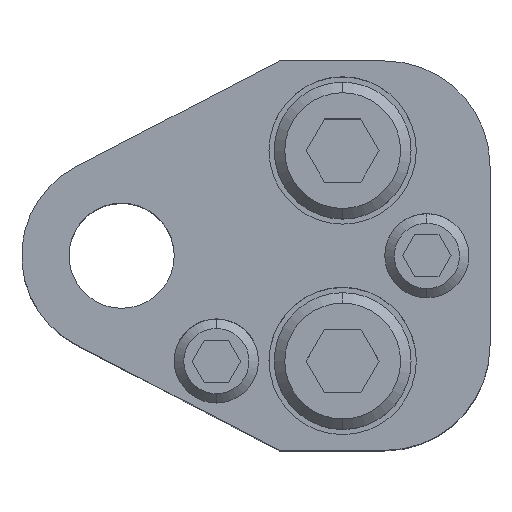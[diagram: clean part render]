
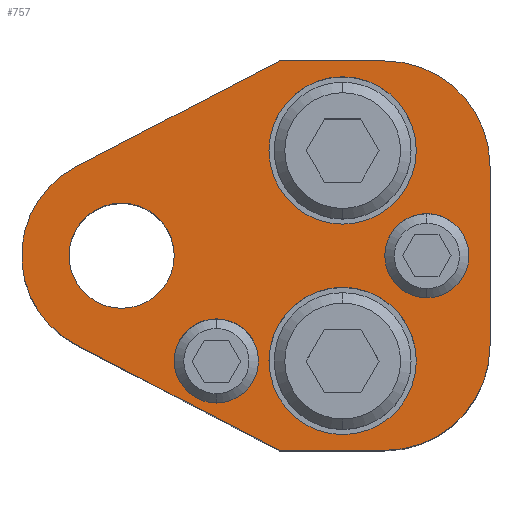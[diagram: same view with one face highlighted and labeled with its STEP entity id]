
A CAD part, top view. The second image highlights one B-rep face of the part: STEP entity #757.
In plain terms, the highlighted planar face has unit normal (0, 0, 1).
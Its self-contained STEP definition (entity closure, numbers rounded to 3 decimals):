
#428=LINE('',#3648,#598);
#433=LINE('',#3663,#603);
#437=LINE('',#3675,#607);
#442=LINE('',#3684,#612);
#447=LINE('',#3698,#617);
#598=VECTOR('',#2943,1.);
#603=VECTOR('',#2956,1.);
#607=VECTOR('',#2968,1.);
#612=VECTOR('',#2975,1.);
#617=VECTOR('',#2988,1.);
#757=ADVANCED_FACE('',(#863,#864,#865,#866,#867,#868),#834,.T.);
#834=PLANE('',#2455);
#863=FACE_BOUND('',#1003,.T.);
#864=FACE_BOUND('',#1004,.T.);
#865=FACE_BOUND('',#1005,.T.);
#866=FACE_BOUND('',#1006,.T.);
#867=FACE_BOUND('',#1007,.T.);
#868=FACE_BOUND('',#1008,.T.);
#1003=EDGE_LOOP('',(#1518,#1519,#1520,#1521,#1522,#1523,#1524,#1525));
#1004=EDGE_LOOP('',(#1526,#1527));
#1005=EDGE_LOOP('',(#1528,#1529));
#1006=EDGE_LOOP('',(#1530,#1531));
#1007=EDGE_LOOP('',(#1532,#1533));
#1008=EDGE_LOOP('',(#1534,#1535));
#1518=ORIENTED_EDGE('',*,*,#2038,.T.);
#1519=ORIENTED_EDGE('',*,*,#2020,.T.);
#1520=ORIENTED_EDGE('',*,*,#2024,.T.);
#1521=ORIENTED_EDGE('',*,*,#2027,.T.);
#1522=ORIENTED_EDGE('',*,*,#2030,.T.);
#1523=ORIENTED_EDGE('',*,*,#2033,.T.);
#1524=ORIENTED_EDGE('',*,*,#2045,.T.);
#1525=ORIENTED_EDGE('',*,*,#2041,.T.);
#1526=ORIENTED_EDGE('',*,*,#2080,.F.);
#1527=ORIENTED_EDGE('',*,*,#2081,.F.);
#1528=ORIENTED_EDGE('',*,*,#2082,.F.);
#1529=ORIENTED_EDGE('',*,*,#2083,.F.);
#1530=ORIENTED_EDGE('',*,*,#2070,.F.);
#1531=ORIENTED_EDGE('',*,*,#2066,.F.);
#1532=ORIENTED_EDGE('',*,*,#2064,.F.);
#1533=ORIENTED_EDGE('',*,*,#2060,.F.);
#1534=ORIENTED_EDGE('',*,*,#2084,.T.);
#1535=ORIENTED_EDGE('',*,*,#2085,.T.);
#1757=VERTEX_POINT('',#3647);
#1758=VERTEX_POINT('',#3649);
#1761=VERTEX_POINT('',#3656);
#1763=VERTEX_POINT('',#3662);
#1765=VERTEX_POINT('',#3668);
#1767=VERTEX_POINT('',#3674);
#1771=VERTEX_POINT('',#3685);
#1773=VERTEX_POINT('',#3691);
#1787=VERTEX_POINT('',#3733);
#1788=VERTEX_POINT('',#3734);
#1791=VERTEX_POINT('',#3745);
#1792=VERTEX_POINT('',#3746);
#1799=VERTEX_POINT('',#3773);
#1800=VERTEX_POINT('',#3774);
#1801=VERTEX_POINT('',#3777);
#1802=VERTEX_POINT('',#3778);
#1803=VERTEX_POINT('',#3781);
#1804=VERTEX_POINT('',#3782);
#2020=EDGE_CURVE('',#1758,#1757,#428,.T.);
#2024=EDGE_CURVE('',#1757,#1761,#2191,.T.);
#2027=EDGE_CURVE('',#1761,#1763,#433,.T.);
#2030=EDGE_CURVE('',#1763,#1765,#2193,.T.);
#2033=EDGE_CURVE('',#1765,#1767,#437,.T.);
#2038=EDGE_CURVE('',#1771,#1758,#442,.T.);
#2041=EDGE_CURVE('',#1773,#1771,#2196,.T.);
#2045=EDGE_CURVE('',#1767,#1773,#447,.T.);
#2060=EDGE_CURVE('',#1787,#1788,#2205,.T.);
#2064=EDGE_CURVE('',#1788,#1787,#2207,.T.);
#2066=EDGE_CURVE('',#1791,#1792,#2209,.T.);
#2070=EDGE_CURVE('',#1792,#1791,#2211,.T.);
#2080=EDGE_CURVE('',#1799,#1800,#2217,.T.);
#2081=EDGE_CURVE('',#1800,#1799,#2218,.T.);
#2082=EDGE_CURVE('',#1801,#1802,#2219,.T.);
#2083=EDGE_CURVE('',#1802,#1801,#2220,.T.);
#2084=EDGE_CURVE('',#1803,#1804,#2221,.T.);
#2085=EDGE_CURVE('',#1804,#1803,#2222,.T.);
#2191=CIRCLE('',#2406,10.);
#2193=CIRCLE('',#2410,10.);
#2196=CIRCLE('',#2416,9.5);
#2205=CIRCLE('',#2429,4.);
#2207=CIRCLE('',#2432,4.);
#2209=CIRCLE('',#2435,4.);
#2211=CIRCLE('',#2438,4.);
#2217=CIRCLE('',#2449,7.);
#2218=CIRCLE('',#2450,7.);
#2219=CIRCLE('',#2451,7.);
#2220=CIRCLE('',#2452,7.);
#2221=CIRCLE('',#2453,5.);
#2222=CIRCLE('',#2454,5.);
#2406=AXIS2_PLACEMENT_3D('',#3657,#2949,#2950);
#2410=AXIS2_PLACEMENT_3D('',#3669,#2961,#2962);
#2416=AXIS2_PLACEMENT_3D('',#3690,#2981,#2982);
#2429=AXIS2_PLACEMENT_3D('',#3732,#3016,#3017);
#2432=AXIS2_PLACEMENT_3D('',#3741,#3024,#3025);
#2435=AXIS2_PLACEMENT_3D('',#3744,#3030,#3031);
#2438=AXIS2_PLACEMENT_3D('',#3753,#3038,#3039);
#2449=AXIS2_PLACEMENT_3D('',#3772,#3064,#3065);
#2450=AXIS2_PLACEMENT_3D('',#3775,#3066,#3067);
#2451=AXIS2_PLACEMENT_3D('',#3776,#3068,#3069);
#2452=AXIS2_PLACEMENT_3D('',#3779,#3070,#3071);
#2453=AXIS2_PLACEMENT_3D('',#3780,#3072,#3073);
#2454=AXIS2_PLACEMENT_3D('',#3783,#3074,#3075);
#2455=AXIS2_PLACEMENT_3D('',#3784,#3076,#3077);
#2943=DIRECTION('',(1.,0.,0.));
#2949=DIRECTION('',(0.,0.,1.));
#2950=DIRECTION('',(-0.707,0.707,0.));
#2956=DIRECTION('',(0.,1.,0.));
#2961=DIRECTION('',(0.,0.,1.));
#2962=DIRECTION('',(-0.707,-0.707,0.));
#2968=DIRECTION('',(-1.,0.,0.));
#2975=DIRECTION('',(0.887,-0.461,0.));
#2981=DIRECTION('',(0.,0.,1.));
#2982=DIRECTION('',(1.,0.,0.));
#2988=DIRECTION('',(-0.887,-0.461,0.));
#3016=DIRECTION('',(0.,0.,1.));
#3017=DIRECTION('',(-1.,0.,0.));
#3024=DIRECTION('',(0.,0.,1.));
#3025=DIRECTION('',(1.,0.,0.));
#3030=DIRECTION('',(0.,0.,1.));
#3031=DIRECTION('',(-1.,0.,0.));
#3038=DIRECTION('',(0.,0.,1.));
#3039=DIRECTION('',(1.,0.,0.));
#3064=DIRECTION('',(0.,0.,1.));
#3065=DIRECTION('',(1.,0.,0.));
#3066=DIRECTION('',(0.,0.,1.));
#3067=DIRECTION('',(-1.,0.,0.));
#3068=DIRECTION('',(0.,0.,1.));
#3069=DIRECTION('',(1.,0.,0.));
#3070=DIRECTION('',(0.,0.,1.));
#3071=DIRECTION('',(-1.,0.,0.));
#3072=DIRECTION('',(0.,0.,-1.));
#3073=DIRECTION('',(-1.,0.,0.));
#3074=DIRECTION('',(0.,0.,-1.));
#3075=DIRECTION('',(1.,0.,0.));
#3076=DIRECTION('',(0.,0.,1.));
#3077=DIRECTION('',(0.887,-0.461,0.));
#3647=CARTESIAN_POINT('',(25.,-18.5,35.));
#3648=CARTESIAN_POINT('',(15.,-18.5,35.));
#3649=CARTESIAN_POINT('',(15.,-18.5,35.));
#3656=CARTESIAN_POINT('',(35.,-8.5,35.));
#3657=CARTESIAN_POINT('',(25.,-8.5,35.));
#3662=CARTESIAN_POINT('',(35.,8.5,35.));
#3663=CARTESIAN_POINT('',(35.,8.5,35.));
#3668=CARTESIAN_POINT('',(25.,18.5,35.));
#3669=CARTESIAN_POINT('',(25.,8.5,35.));
#3674=CARTESIAN_POINT('',(15.,18.5,35.));
#3675=CARTESIAN_POINT('',(15.,18.5,35.));
#3684=CARTESIAN_POINT('',(15.,-18.5,35.));
#3685=CARTESIAN_POINT('',(-4.38,-8.43,35.));
#3690=CARTESIAN_POINT('',(0.,0.,35.));
#3691=CARTESIAN_POINT('',(-4.38,8.43,35.));
#3698=CARTESIAN_POINT('',(15.,18.5,35.));
#3732=CARTESIAN_POINT('',(9.,-10.,35.));
#3733=CARTESIAN_POINT('',(9.,-14.,35.));
#3734=CARTESIAN_POINT('',(9.,-6.,35.));
#3741=CARTESIAN_POINT('',(9.,-10.,35.));
#3744=CARTESIAN_POINT('',(29.,0.,35.));
#3745=CARTESIAN_POINT('',(29.,-4.,35.));
#3746=CARTESIAN_POINT('',(29.,4.,35.));
#3753=CARTESIAN_POINT('',(29.,0.,35.));
#3772=CARTESIAN_POINT('',(21.,10.,35.));
#3773=CARTESIAN_POINT('',(21.,17.,35.));
#3774=CARTESIAN_POINT('',(21.,3.,35.));
#3775=CARTESIAN_POINT('',(21.,10.,35.));
#3776=CARTESIAN_POINT('',(21.,-10.,35.));
#3777=CARTESIAN_POINT('',(21.,-3.,35.));
#3778=CARTESIAN_POINT('',(21.,-17.,35.));
#3779=CARTESIAN_POINT('',(21.,-10.,35.));
#3780=CARTESIAN_POINT('',(0.,0.,35.));
#3781=CARTESIAN_POINT('',(0.,5.,35.));
#3782=CARTESIAN_POINT('',(0.,-5.,35.));
#3783=CARTESIAN_POINT('',(0.,0.,35.));
#3784=CARTESIAN_POINT('',(-4.38,-8.43,35.));
